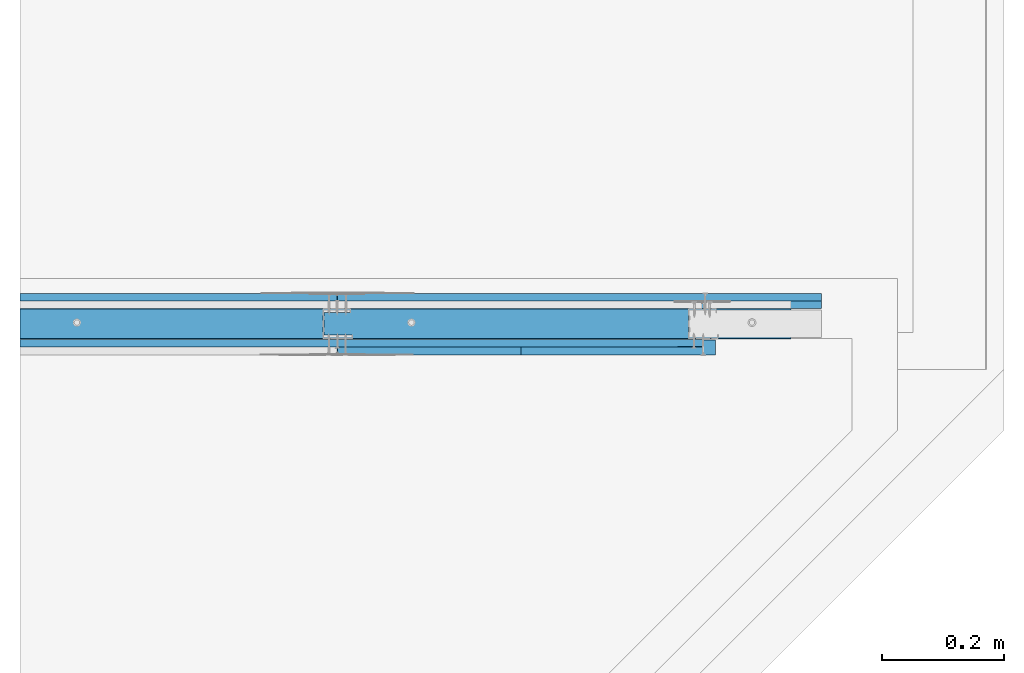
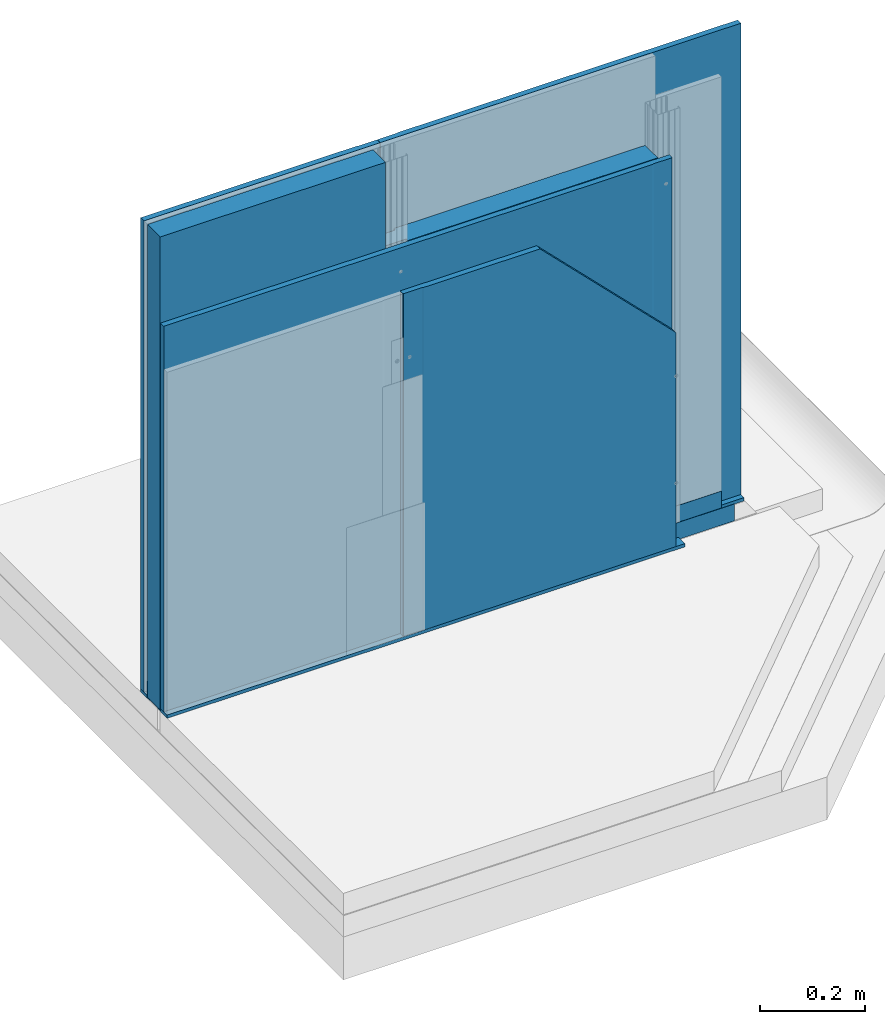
# One storey, part 2 of 36: 9 walls.
"""IFC2X3 building model written with IfcOpenShell, lengths in millimetres."""

from ifc_helpers import new_model, entity, si_unit, converted_unit, direction, frame, origin, origin_with_axes, place, context, project, spatial, faceted_brep, element, save


model = new_model("IFC2X3")

# Units and contexts
model_context = context("Model", 3, precision=1e-05, world=origin(), true_north=direction((0.0, 1.0, 0.0)))
ifc_project = project(units=[si_unit("LENGTHUNIT", "METRE", prefix="MILLI"), si_unit("AREAUNIT", "SQUARE_METRE"), si_unit("VOLUMEUNIT", "CUBIC_METRE"), converted_unit("PLANEANGLEUNIT", "DEGREE", entity("IfcPlaneAngleMeasure", 0.01745), si_unit("PLANEANGLEUNIT", "RADIAN"), dimensions=[0, 0, 0, 0, 0, 0, 0]), si_unit("SOLIDANGLEUNIT", "STERADIAN"), si_unit("MASSUNIT", "GRAM"), si_unit("TIMEUNIT", "SECOND"), si_unit("THERMODYNAMICTEMPERATUREUNIT", "DEGREE_CELSIUS"), si_unit("LUMINOUSINTENSITYUNIT", "LUMEN")], contexts=[model_context])

# Site, building, storey
site_placement = place(None, origin_with_axes())
site = spatial("IfcSite", under=ifc_project, at=site_placement, Name="Default Site", CompositionType="ELEMENT")
building_placement = place(site_placement, origin_with_axes())
building = spatial("IfcBuilding", under=site, at=building_placement, Name="Default Building", CompositionType="ELEMENT")
storey_placement = place(building_placement, origin_with_axes())
storey = spatial("IfcBuildingStorey", under=building, at=storey_placement, Name="Default Building Storey", CompositionType="ELEMENT", Elevation=0.0)

# Walls
wall_1_placement = place(storey_placement, frame((2647.429648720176, 2034.640922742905, 1161.999999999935), z_axis=(0.0, 0.0, 1.0), x_axis=(1.0, 0.0, 0.0)))
element("IfcWall", 1, at=wall_1_placement, inside=storey, Name="Płyta gipsowo-kartonowa RIGIPS PRO (4PRO™)", context=model_context, shape_type="Brep", body=[
    faceted_brep([(795.6109695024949, 12.49999999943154, 49.99999999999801), (795.6109695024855, -5.40711653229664e-10, 49.99999999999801), (795.6109695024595, -5.371020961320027e-10, -1050.001581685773), (795.6109695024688, 12.49999999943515, -1050.001581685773), (44.99999999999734, 12.50000000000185, 50.00000000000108), (40.99999999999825, 11.50000000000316, 50.00000000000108), (0.9999999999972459, 11.50000000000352, 50.00000000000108), (0.7411809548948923, 11.46592582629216, 50.00000000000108), (0.4999999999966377, 11.36602540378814, 50.00000000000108), (0.2928932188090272, 11.20710678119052, 50.00000000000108), (0.1339745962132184, 11.00000000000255, 50.00000000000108), (0.0340741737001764, 10.75881904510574, 50.00000000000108), (-3.248601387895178e-12, 10.50000000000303, 50.00000000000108), (-1.082867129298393e-12, -3.609557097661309e-13, 50.00000000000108), (44.99999999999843, 12.50000000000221, -1050.001581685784), (40.99999999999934, 11.50000000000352, -1050.001581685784), (0.9999999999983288, 11.50000000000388, -1050.001581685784), (0.7411809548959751, 11.46592582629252, -1050.001581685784), (0.4999999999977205, 11.3660254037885, -1050.001581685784), (0.29289321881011, 11.20710678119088, -1050.001581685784), (0.1339745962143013, 11.00000000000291, -1050.001581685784), (0.03407417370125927, 10.7588190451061, -1050.001581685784), (-2.165734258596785e-12, 10.50000000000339, -1050.001581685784), (0.0, 0.0, -1050.001581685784)], [[[0, 1, 2, 3]], [[0, 4, 5, 6, 7, 8, 9, 10, 11, 12, 13, 1]], [[3, 14, 4, 0]], [[5, 4, 14, 15]], [[6, 5, 15, 16]], [[7, 6, 16, 17]], [[8, 7, 17, 18]], [[9, 8, 18, 19]], [[10, 9, 19, 20]], [[11, 10, 20, 21]], [[12, 11, 21, 22]], [[13, 12, 22, 23]], [[2, 1, 13, 23]], [[14, 3, 2, 23, 22, 21, 20, 19, 18, 17, 16, 15]]]),
])
wall_2_placement = place(storey_placement, frame((2646.429648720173, 2034.640922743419, 1161.999999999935), z_axis=(0.0, 0.0, 1.0), x_axis=(-1.0, 0.0, 0.0)))
element("IfcWall", 2, at=wall_2_placement, inside=storey, Name="Płyta gipsowo-kartonowa RIGIPS PRO (4PRO™)", context=model_context, shape_type="Brep", body=[
    faceted_brep([(521.4045152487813, -12.4999999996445, 50.00000000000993), (521.4045152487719, 3.277477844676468e-10, 50.00000000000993), (521.404515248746, 3.241382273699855e-10, -1050.001581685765), (521.4045152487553, -12.49999999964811, -1050.001581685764), (44.99999999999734, -12.50000000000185, 50.00000000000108), (40.99999999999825, -11.50000000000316, 50.00000000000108), (0.9999999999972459, -11.50000000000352, 50.00000000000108), (0.7411809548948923, -11.46592582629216, 50.00000000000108), (0.4999999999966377, -11.36602540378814, 50.00000000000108), (0.2928932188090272, -11.20710678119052, 50.00000000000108), (0.1339745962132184, -11.00000000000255, 50.00000000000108), (0.0340741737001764, -10.75881904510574, 50.00000000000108), (-3.248601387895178e-12, -10.50000000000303, 50.00000000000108), (-1.082867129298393e-12, 3.609557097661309e-13, 50.00000000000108), (44.99999999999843, -12.50000000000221, -1050.001581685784), (40.99999999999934, -11.50000000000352, -1050.001581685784), (0.9999999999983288, -11.50000000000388, -1050.001581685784), (0.7411809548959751, -11.46592582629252, -1050.001581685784), (0.4999999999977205, -11.3660254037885, -1050.001581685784), (0.29289321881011, -11.20710678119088, -1050.001581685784), (0.1339745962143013, -11.00000000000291, -1050.001581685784), (0.03407417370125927, -10.7588190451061, -1050.001581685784), (-2.165734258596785e-12, -10.50000000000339, -1050.001581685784), (0.0, 0.0, -1050.001581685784)], [[[0, 1, 2, 3]], [[0, 4, 5, 6, 7, 8, 9, 10, 11, 12, 13, 1]], [[3, 14, 4, 0]], [[5, 4, 14, 15]], [[6, 5, 15, 16]], [[7, 6, 16, 17]], [[8, 7, 17, 18]], [[9, 8, 18, 19]], [[10, 9, 19, 20]], [[11, 10, 20, 21]], [[12, 11, 21, 22]], [[13, 12, 22, 23]], [[2, 1, 13, 23]], [[14, 3, 2, 23, 22, 21, 20, 19, 18, 17, 16, 15]]]),
])
wall_3_placement = place(storey_placement, frame((3443.040618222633, 2022.494753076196, 104.3840257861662), z_axis=(0.0, 0.0, 1.0), x_axis=(1.0, 0.0, 0.0)))
element("IfcWall", 3, at=wall_3_placement, inside=storey, Name="Dedykowana masa szpachlowa Rigips - konstrukcyjna", context=model_context, shape_type="Brep", body=[
    faceted_brep([(0.0, 24.6461696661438, 0.0), (0.0, 0.0, 0.0), (-1318.015484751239, 0.0, 0.0), (-1318.015484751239, 24.6461696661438, 0.0), (0.0, 0.0, 7.614392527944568), (-1318.015484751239, 0.0, 7.614392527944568), (0.0, 24.6461696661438, 7.614392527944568), (-1318.015484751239, 24.6461696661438, 7.614392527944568)], [[[0, 1, 2, 3]], [[1, 4, 5, 2]], [[4, 6, 7, 5]], [[6, 0, 3, 7]], [[7, 3, 2, 5]], [[0, 6, 4, 1]]]),
])
wall_4_placement = place(storey_placement, frame((2786.490947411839, 5452.424146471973, 110.8006114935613), z_axis=(0.0, 0.0, 1.0), x_axis=(1.0, 0.0, 0.0)))
element("IfcWall", 4, at=wall_4_placement, inside=storey, Name="Wełna mineralna szklana lub skalna ISOVER", context=model_context, shape_type="Brep", body=[
    faceted_brep([(-161.2958819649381, -3473.633223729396, -3.060216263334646), (-161.2958819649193, -3473.633223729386, 901.1993885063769), (-114.6214102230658, -3473.633223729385, 901.1993885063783), (-114.6214102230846, -3473.633223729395, -3.060216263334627), (-114.6214102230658, -3479.633223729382, 901.1993885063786), (-114.6214102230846, -3479.633223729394, -3.060216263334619), (-161.2958819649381, -3436.833223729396, -3.060216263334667), (-161.2958819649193, -3436.833223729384, 901.1993885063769), (-117.6214102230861, -3436.833223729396, -3.060216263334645), (-117.6214102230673, -3436.833223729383, 901.199388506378), (-117.6214102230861, -3431.283223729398, -3.060216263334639), (437.5658080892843, -3431.283223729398, -3.060216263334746), (437.5658080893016, -3431.283223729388, 901.1993885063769), (-117.6214102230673, -3431.283223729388, 901.1993885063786), (437.5658080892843, -3479.633223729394, -3.060216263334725), (437.5658080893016, -3479.633223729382, 901.1993885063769)], [[[0, 1, 2, 3]], [[3, 2, 4, 5]], [[1, 0, 6, 7]], [[7, 6, 8, 9]], [[10, 11, 12, 13]], [[9, 8, 10, 13]], [[3, 5, 14, 11, 10, 8, 6, 0]], [[4, 15, 14, 5]], [[15, 4, 2, 1, 7, 9, 13, 12]], [[14, 15, 12, 11]]]),
])
wall_5_placement = place(storey_placement, frame((2172.059826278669, 5452.424146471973, 110.6721379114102), z_axis=(0.0, 0.0, 1.0), x_axis=(1.0, 0.0, 0.0)))
element("IfcWall", 5, at=wall_5_placement, inside=storey, Name="Wełna mineralna szklana lub skalna ISOVER", context=model_context, shape_type="Brep", body=[
    faceted_brep([(-47.03469280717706, -3431.283223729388, 1101.327862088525), (-47.0346928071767, -3479.633223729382, 1101.327862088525), (-47.03469280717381, -3479.633223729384, -2.931742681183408), (-47.03469280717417, -3431.283223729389, -2.931742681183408), (450.8097109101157, -3431.283223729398, -2.931742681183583), (450.8097109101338, -3431.283223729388, 1101.327862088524), (450.8097109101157, -3479.633223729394, -2.931742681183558), (450.8097109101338, -3479.633223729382, 1101.327862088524)], [[[0, 1, 2, 3]], [[3, 4, 5, 0]], [[2, 6, 4, 3]], [[2, 1, 7, 6]], [[0, 5, 7, 1]], [[6, 7, 5, 4]]]),
])
wall_6_placement = place(storey_placement, frame((3200.681710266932, 5452.424146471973, 110.3903952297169), z_axis=(6.44634805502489e-14, -6.858158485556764e-13, 1.0), x_axis=(1.0, -1.148337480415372e-16, -9.007748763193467e-14)))
element("IfcWall", 6, at=wall_6_placement, inside=storey, Name="Profil RIGIPS UW50 ULTRASTIL®", context=model_context, shape_type="Brep", body=[
    faceted_brep([(-938.2578181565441, -3470.476261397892, -4.901701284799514), (-938.2578181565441, -3470.287116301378, -4.783410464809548), (-938.2578181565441, -3470.128902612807, -4.626130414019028), (-1075.65657679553, -3470.128902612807, -4.626130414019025), (-1075.65657679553, -3470.476261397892, -4.901701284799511), (-938.2578181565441, -3470.063927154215, -4.535249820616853), (-938.2578181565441, -3470.009494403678, -4.437688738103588), (-1075.65657679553, -3470.009494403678, -4.437688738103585), (-938.2578181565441, -3440.279331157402, -4.783410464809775), (-938.2578181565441, -3440.090186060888, -4.901701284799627), (-938.2578181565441, -3439.87952304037, -4.97511570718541), (-1075.65657679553, -3439.87952304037, -4.975115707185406), (-1075.65657679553, -3440.279331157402, -4.783410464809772), (-938.2578181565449, -3440.819375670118, -2.866589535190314), (-938.2578181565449, -3441.008520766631, -2.748298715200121), (-938.2578181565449, -3441.219183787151, -2.674884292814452), (-1075.656576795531, -3441.219183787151, -2.67488429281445), (-1075.656576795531, -3440.819375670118, -2.866589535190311), (-938.2578181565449, -3469.55792669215, -2.74829871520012), (-938.2578181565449, -3469.747071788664, -2.866589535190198), (-938.2578181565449, -3469.905285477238, -3.023869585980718), (-1075.656576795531, -3469.905285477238, -3.023869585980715), (-1075.656576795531, -3469.55792669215, -2.748298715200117), (-1075.65657679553, -3479.733223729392, 35.00000000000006), (-1075.65657679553, -3480.283223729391, 35.00000000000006), (-1075.65657679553, -3480.283223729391, -4.199999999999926), (-1075.65657679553, -3480.273374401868, -4.325147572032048), (-1075.65657679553, -3480.244068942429, -4.447213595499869), (-1075.65657679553, -3480.196028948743, -4.563192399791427), (-1075.65657679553, -3480.130437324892, -4.670228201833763), (-1075.65657679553, -3480.048909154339, -4.765685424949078), (-1075.65657679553, -3479.953451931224, -4.847213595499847), (-1075.65657679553, -3479.846416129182, -4.912805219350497), (-1075.65657679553, -3479.73043732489, -4.960845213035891), (-1075.65657679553, -3479.608371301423, -4.99015067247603), (-1075.65657679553, -3479.483223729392, -4.999999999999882), (-1075.65657679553, -3470.908620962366, -4.999999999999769), (-1075.65657679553, -3470.686924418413, -4.975115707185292), (-1075.65657679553, -3469.680725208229, -3.762311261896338), (-1075.65657679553, -3469.561316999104, -3.573869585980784), (-1075.65657679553, -3469.403103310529, -3.416589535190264), (-1075.65657679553, -3469.213958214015, -3.298298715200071), (-1075.65657679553, -3469.003295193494, -3.224884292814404), (-1075.65657679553, -3468.781598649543, -3.199999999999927), (-1075.65657679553, -3441.78484880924, -3.199999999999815), (-1075.65657679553, -3441.563152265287, -3.224884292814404), (-1075.65657679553, -3441.352489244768, -3.298298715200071), (-1075.65657679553, -3441.163344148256, -3.416589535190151), (-1075.65657679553, -3441.005130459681, -3.573869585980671), (-1075.65657679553, -3440.885722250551, -3.762311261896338), (-1075.65657679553, -3440.556953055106, -4.437688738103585), (-1075.65657679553, -3440.437544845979, -4.626130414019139), (-1075.65657679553, -3439.657826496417, -4.999999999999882), (-1075.65657679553, -3431.083223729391, -4.999999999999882), (-1075.65657679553, -3430.95807615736, -4.990150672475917), (-1075.65657679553, -3430.83601013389, -4.960845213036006), (-1075.65657679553, -3430.720031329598, -4.912805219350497), (-1075.65657679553, -3430.612995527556, -4.847213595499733), (-1075.65657679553, -3430.51753830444, -4.765685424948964), (-1075.65657679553, -3430.436010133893, -4.670228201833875), (-1075.65657679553, -3430.370418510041, -4.563192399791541), (-1075.65657679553, -3430.322378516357, -4.447213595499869), (-1075.65657679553, -3430.293073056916, -4.325147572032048), (-1075.65657679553, -3430.283223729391, -4.199999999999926), (-1075.65657679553, -3430.283223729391, 35.00000000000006), (-1075.65657679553, -3430.833223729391, 35.00000000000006), (-1075.65657679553, -3430.833223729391, -4.199999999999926), (-1075.65657679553, -3430.836301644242, -4.23910861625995), (-1075.65657679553, -3430.845459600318, -4.27725424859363), (-1075.65657679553, -3430.860472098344, -4.313497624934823), (-1075.65657679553, -3430.880969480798, -4.346946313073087), (-1075.65657679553, -3430.906447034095, -4.376776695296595), (-1075.65657679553, -3430.936277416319, -4.402254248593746), (-1075.65657679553, -3430.969726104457, -4.422751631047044), (-1075.65657679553, -3431.005969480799, -4.437764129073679), (-1075.65657679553, -3431.044115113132, -4.44692208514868), (-1075.65657679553, -3431.083223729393, -4.449999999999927), (-1075.65657679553, -3439.313858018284, -4.45000000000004), (-1075.65657679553, -3439.535554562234, -4.425115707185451), (-1075.65657679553, -3439.746217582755, -4.351701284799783), (-1075.65657679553, -3439.935362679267, -4.233410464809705), (-1075.65657679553, -3440.093576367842, -4.076130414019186), (-1075.65657679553, -3440.212984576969, -3.887688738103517), (-1075.65657679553, -3440.541753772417, -3.212311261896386), (-1075.656576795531, -3440.661161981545, -3.02386958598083), (-1075.656576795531, -3441.440880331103, -2.649999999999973), (-1075.656576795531, -3469.125567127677, -2.649999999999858), (-1075.656576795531, -3469.347263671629, -2.674884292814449), (-1075.65657679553, -3470.024693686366, -3.212311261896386), (-1075.65657679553, -3470.353462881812, -3.887688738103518), (-1075.65657679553, -3470.472871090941, -4.076130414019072), (-1075.65657679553, -3470.631084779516, -4.233410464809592), (-1075.65657679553, -3470.820229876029, -4.351701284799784), (-1075.65657679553, -3471.030892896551, -4.425115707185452), (-1075.65657679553, -3471.252589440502, -4.449999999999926), (-1075.65657679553, -3479.483223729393, -4.449999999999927), (-1075.65657679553, -3479.522332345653, -4.446922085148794), (-1075.65657679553, -3479.560477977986, -4.437764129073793), (-1075.65657679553, -3479.596721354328, -4.422751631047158), (-1075.65657679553, -3479.630170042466, -4.402254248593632), (-1075.65657679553, -3479.660000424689, -4.376776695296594), (-1075.65657679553, -3479.685477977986, -4.346946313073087), (-1075.65657679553, -3479.705975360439, -4.313497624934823), (-1075.65657679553, -3479.720987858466, -4.27725424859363), (-1075.65657679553, -3479.730145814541, -4.23910861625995), (-1075.65657679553, -3479.733223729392, -4.199999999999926), (192.3589079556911, -3480.283223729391, -4.200000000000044), (192.358907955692, -3480.283223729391, 35.0), (192.358907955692, -3479.733223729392, 35.0), (192.3589079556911, -3479.733223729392, -4.200000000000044), (192.3589079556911, -3479.730145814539, -4.239108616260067), (192.3589079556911, -3479.720987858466, -4.277254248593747), (192.3589079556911, -3479.705975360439, -4.313497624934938), (192.3589079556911, -3479.685477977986, -4.346946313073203), (192.3589079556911, -3479.660000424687, -4.376776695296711), (192.3589079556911, -3479.630170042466, -4.402254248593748), (192.3589079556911, -3479.596721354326, -4.422751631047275), (192.3589079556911, -3479.560477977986, -4.43776412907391), (192.3589079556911, -3479.522332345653, -4.446922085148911), (192.3589079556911, -3479.483223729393, -4.450000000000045), (192.3589079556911, -3471.252589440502, -4.450000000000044), (192.3589079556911, -3471.030892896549, -4.425115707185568), (192.3589079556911, -3470.820229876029, -4.3517012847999), (192.3589079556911, -3470.631084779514, -4.233410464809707), (192.3589079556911, -3470.472871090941, -4.076130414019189), (192.3589079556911, -3470.353462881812, -3.887688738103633), (192.358907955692, -3470.024693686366, -3.212311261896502), (192.358907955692, -3469.905285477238, -3.023869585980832), (192.358907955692, -3469.747071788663, -2.866589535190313), (192.358907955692, -3469.55792669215, -2.748298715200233), (192.358907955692, -3469.347263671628, -2.674884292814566), (192.358907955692, -3469.125567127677, -2.649999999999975), (192.358907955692, -3441.440880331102, -2.650000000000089), (192.358907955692, -3441.219183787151, -2.674884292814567), (192.358907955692, -3441.008520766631, -2.748298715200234), (192.358907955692, -3440.819375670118, -2.866589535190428), (192.358907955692, -3440.661161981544, -3.023869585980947), (192.358907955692, -3440.541753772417, -3.212311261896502), (192.3589079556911, -3440.212984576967, -3.887688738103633), (192.3589079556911, -3440.093576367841, -4.076130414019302), (192.3589079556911, -3439.935362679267, -4.233410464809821), (192.3589079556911, -3439.746217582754, -4.3517012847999), (192.3589079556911, -3439.535554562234, -4.425115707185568), (192.3589079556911, -3439.313858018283, -4.450000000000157), (192.3589079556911, -3431.083223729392, -4.450000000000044), (192.3589079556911, -3431.044115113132, -4.446922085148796), (192.3589079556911, -3431.005969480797, -4.437764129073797), (192.3589079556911, -3430.969726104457, -4.422751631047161), (192.3589079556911, -3430.936277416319, -4.402254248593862), (192.3589079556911, -3430.906447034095, -4.376776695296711), (192.3589079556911, -3430.880969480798, -4.346946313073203), (192.3589079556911, -3430.860472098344, -4.313497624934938), (192.3589079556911, -3430.845459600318, -4.277254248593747), (192.3589079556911, -3430.836301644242, -4.239108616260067), (192.3589079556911, -3430.833223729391, -4.200000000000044), (192.358907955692, -3430.833223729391, 35.0), (192.358907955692, -3430.283223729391, 35.0), (192.3589079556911, -3430.283223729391, -4.200000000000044), (192.3589079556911, -3430.293073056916, -4.325147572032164), (192.3589079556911, -3430.322378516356, -4.447213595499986), (192.358907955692, -3430.370418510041, -4.563192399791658), (192.358907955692, -3430.436010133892, -4.670228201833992), (192.358907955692, -3430.51753830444, -4.765685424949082), (192.358907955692, -3430.612995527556, -4.84721359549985), (192.3589079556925, -3430.720031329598, -4.912805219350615), (192.3589079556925, -3430.83601013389, -4.960845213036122), (192.3589079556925, -3430.958076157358, -4.990150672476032), (192.3589079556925, -3431.083223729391, -4.999999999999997), (192.3589079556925, -3439.657826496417, -4.999999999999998), (192.3589079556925, -3439.879523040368, -4.975115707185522), (192.3589079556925, -3440.090186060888, -4.901701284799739), (192.358907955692, -3440.279331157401, -4.783410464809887), (192.358907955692, -3440.437544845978, -4.626130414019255), (192.3589079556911, -3440.556953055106, -4.437688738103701), (192.358907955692, -3440.88572225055, -3.762311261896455), (192.358907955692, -3441.005130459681, -3.573869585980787), (192.358907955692, -3441.163344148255, -3.416589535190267), (192.358907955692, -3441.352489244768, -3.298298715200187), (192.358907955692, -3441.563152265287, -3.22488429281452), (192.358907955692, -3441.78484880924, -3.199999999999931), (192.358907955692, -3468.781598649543, -3.200000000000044), (192.358907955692, -3469.003295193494, -3.22488429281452), (192.358907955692, -3469.213958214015, -3.298298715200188), (192.358907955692, -3469.403103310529, -3.416589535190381), (192.358907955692, -3469.561316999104, -3.5738695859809), (192.358907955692, -3469.680725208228, -3.762311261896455), (192.3589079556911, -3470.009494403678, -4.437688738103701), (192.3589079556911, -3470.063927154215, -4.535249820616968), (192.358907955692, -3470.128902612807, -4.626130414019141), (192.358907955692, -3470.287116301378, -4.783410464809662), (192.3589079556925, -3470.476261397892, -4.901701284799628), (192.3589079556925, -3470.686924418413, -4.975115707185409), (192.3589079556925, -3470.908620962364, -4.999999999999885), (192.3589079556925, -3479.483223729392, -4.999999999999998), (192.3589079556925, -3479.608371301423, -4.990150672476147), (192.3589079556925, -3479.730437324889, -4.960845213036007), (192.3589079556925, -3479.846416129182, -4.912805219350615), (192.358907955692, -3479.953451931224, -4.847213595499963), (192.358907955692, -3480.048909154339, -4.765685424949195), (192.358907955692, -3480.130437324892, -4.670228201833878), (192.358907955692, -3480.196028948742, -4.563192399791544), (192.3589079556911, -3480.244068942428, -4.447213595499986), (192.3589079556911, -3480.273374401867, -4.325147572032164)], [[[0, 1, 2, 3, 4]], [[2, 5, 6, 7, 3]], [[8, 9, 10, 11, 12]], [[13, 14, 15, 16, 17]], [[18, 19, 20, 21, 22]], [[23, 24, 25, 26, 27, 28, 29, 30, 31, 32, 33, 34, 35, 36, 37, 4, 3, 7, 38, 39, 40, 41, 42, 43, 44, 45, 46, 47, 48, 49, 50, 51, 12, 11, 52, 53, 54, 55, 56, 57, 58, 59, 60, 61, 62, 63, 64, 65, 66, 67, 68, 69, 70, 71, 72, 73, 74, 75, 76, 77, 78, 79, 80, 81, 82, 83, 84, 17, 16, 85, 86, 87, 22, 21, 88, 89, 90, 91, 92, 93, 94, 95, 96, 97, 98, 99, 100, 101, 102, 103, 104, 105]], [[106, 107, 108, 109, 110, 111, 112, 113, 114, 115, 116, 117, 118, 119, 120, 121, 122, 123, 124, 125, 126, 127, 128, 129, 130, 131, 132, 133, 134, 135, 136, 137, 138, 139, 140, 141, 142, 143, 144, 145, 146, 147, 148, 149, 150, 151, 152, 153, 154, 155, 156, 157, 158, 159, 160, 161, 162, 163, 164, 165, 166, 167, 168, 169, 170, 171, 172, 173, 174, 175, 176, 177, 178, 179, 180, 181, 182, 183, 184, 185, 186, 187, 188, 189, 190, 191, 192, 193, 194, 195, 196, 197, 198, 199, 200, 201, 202]], [[63, 157, 156, 64]], [[64, 156, 155, 65]], [[65, 155, 154, 66]], [[144, 76, 75, 145]], [[74, 146, 145, 75]], [[73, 147, 146, 74]], [[147, 73, 72, 148]], [[71, 149, 148, 72]], [[149, 71, 70, 150]], [[69, 151, 150, 70]], [[68, 152, 151, 69]], [[152, 68, 67, 153]], [[66, 154, 153, 67]], [[76, 144, 143, 77]], [[81, 139, 138, 82]], [[80, 140, 139, 81]], [[79, 141, 140, 80]], [[143, 142, 78, 77]], [[78, 142, 141, 79]], [[82, 138, 137, 83]], [[15, 133, 132, 85, 16]], [[14, 134, 133, 15]], [[13, 135, 134, 14]], [[84, 136, 135, 13, 17]], [[137, 136, 84, 83]], [[85, 132, 131, 86]], [[20, 127, 126, 88, 21]], [[19, 128, 127, 20]], [[18, 129, 128, 19]], [[87, 130, 129, 18, 22]], [[131, 130, 87, 86]], [[88, 126, 125, 89]], [[93, 121, 120, 94]], [[92, 122, 121, 93]], [[91, 123, 122, 92]], [[125, 124, 90, 89]], [[90, 124, 123, 91]], [[94, 120, 119, 95]], [[109, 105, 104, 110]], [[103, 111, 110, 104]], [[102, 112, 111, 103]], [[112, 102, 101, 113]], [[100, 114, 113, 101]], [[114, 100, 99, 115]], [[98, 116, 115, 99]], [[97, 117, 116, 98]], [[117, 97, 96, 118]], [[95, 119, 118, 96]], [[105, 109, 108, 23]], [[23, 108, 107, 24]], [[24, 107, 106, 25]], [[33, 195, 194, 34]], [[194, 193, 35, 34]], [[32, 196, 195, 33]], [[30, 198, 197, 31]], [[197, 196, 32, 31]], [[28, 200, 199, 29]], [[199, 198, 30, 29]], [[27, 201, 200, 28]], [[25, 106, 202, 26]], [[202, 201, 27, 26]], [[35, 193, 192, 36]], [[5, 2, 188, 187]], [[187, 186, 6, 5]], [[1, 189, 188, 2]], [[0, 190, 189, 1]], [[37, 191, 190, 0, 4]], [[192, 191, 37, 36]], [[6, 186, 185, 38, 7]], [[42, 181, 180, 43]], [[41, 182, 181, 42]], [[40, 183, 182, 41]], [[185, 184, 39, 38]], [[39, 184, 183, 40]], [[43, 180, 179, 44]], [[48, 175, 174, 49]], [[47, 176, 175, 48]], [[46, 177, 176, 47]], [[179, 178, 45, 44]], [[45, 178, 177, 46]], [[49, 174, 173, 50]], [[10, 169, 168, 52, 11]], [[9, 170, 169, 10]], [[8, 171, 170, 9]], [[51, 172, 171, 8, 12]], [[173, 172, 51, 50]], [[52, 168, 167, 53]], [[61, 159, 158, 62]], [[158, 157, 63, 62]], [[60, 160, 159, 61]], [[58, 162, 161, 59]], [[161, 160, 60, 59]], [[56, 164, 163, 57]], [[163, 162, 58, 57]], [[55, 165, 164, 56]], [[53, 167, 166, 54]], [[166, 165, 55, 54]]]),
])
wall_7_placement = place(storey_placement, frame((3268.31475601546, 1946.180077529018, 104.3840257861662), z_axis=(0.0, 0.0, 1.0), x_axis=(1.0, 0.0, 0.0)))
element("IfcWall", 7, at=wall_7_placement, inside=storey, Name="Dedykowana masa szpachlowa Rigips - konstrukcyjna", context=model_context, shape_type="Brep", body=[
    faceted_brep([(0.0, 24.6461696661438, 0.0), (0.0, 0.0, 0.0), (-1143.289622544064, 0.0, 0.0), (-1143.289622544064, 24.6461696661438, 0.0), (0.0, 0.0, 7.614392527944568), (-1143.289622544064, 0.0, 7.614392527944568), (0.0, 24.6461696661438, 7.614392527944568), (-1143.289622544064, 24.6461696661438, 7.614392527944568)], [[[0, 1, 2, 3]], [[1, 4, 5, 2]], [[4, 6, 7, 5]], [[6, 0, 3, 7]], [[7, 3, 2, 5]], [[0, 6, 4, 1]]]),
])
wall_8_placement = place(storey_placement, frame((2647.242430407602, 1958.680077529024, 1161.999999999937), z_axis=(0.0, 0.0, 1.0), x_axis=(1.0, 0.0, 0.0)))
element("IfcWall", 8, at=wall_8_placement, inside=storey, Name="Płyta gipsowo-kartonowa RIGIPS PRO (4PRO™)", context=model_context, shape_type="Brep", body=[
    faceted_brep([(601.187218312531, -12.49999999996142, -550.0000000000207), (301.1872183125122, -12.49999999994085, -250.0000000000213), (301.1872183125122, 3.97051280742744e-11, -250.0000000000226), (601.1872183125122, 5.919673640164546e-11, -550.000000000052), (601.1872183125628, -12.49999999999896, -1050.001581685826), (44.99999999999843, -12.50000000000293, -1050.001581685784), (44.99999999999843, -12.50000000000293, -249.9999999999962), (601.187218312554, 2.526689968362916e-12, -1050.001581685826), (285.9232783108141, 4.475850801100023e-11, -250.0000000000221), (40.99999999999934, -11.50000000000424, -249.9999999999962), (0.9999999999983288, -11.5000000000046, -249.9999999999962), (0.7411809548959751, -11.46592582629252, -249.9999999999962), (0.4999999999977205, -11.3660254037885, -249.9999999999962), (0.29289321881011, -11.20710678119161, -249.9999999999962), (0.1339745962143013, -11.00000000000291, -249.9999999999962), (0.03407417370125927, -10.7588190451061, -249.9999999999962), (-3.97051280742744e-12, -10.50000000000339, -249.9999999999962), (0.0, 0.0, -249.9999999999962), (40.99999999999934, -11.50000000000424, -1050.001581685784), (0.9999999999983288, -11.5000000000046, -1050.001581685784), (0.7411809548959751, -11.46592582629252, -1050.001581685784), (0.4999999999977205, -11.3660254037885, -1050.001581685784), (0.29289321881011, -11.20710678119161, -1050.001581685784), (0.1339745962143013, -11.00000000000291, -1050.001581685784), (0.03407417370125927, -10.7588190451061, -1050.001581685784), (-3.97051280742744e-12, -10.50000000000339, -1050.001581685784), (0.0, 0.0, -1050.001581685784)], [[[0, 1, 2, 3]], [[0, 4, 5, 6, 1]], [[3, 7, 4, 0]], [[8, 2, 1, 6, 9, 10, 11, 12, 13, 14, 15, 16, 17]], [[2, 8, 3]], [[9, 6, 5, 18]], [[10, 9, 18, 19]], [[11, 10, 19, 20]], [[12, 11, 20, 21]], [[13, 12, 21, 22]], [[14, 13, 22, 23]], [[15, 14, 23, 24]], [[16, 15, 24, 25]], [[17, 16, 25, 26]], [[26, 7, 3, 8, 17]], [[5, 4, 7, 26, 25, 24, 23, 22, 21, 20, 19, 18]]]),
])
wall_9_placement = place(storey_placement, frame((2048.4296487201, 1971.180077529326, 1261.999999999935), z_axis=(0.0, 0.0, 1.0), x_axis=(1.0, 0.0, 0.0)))
element("IfcWall", 9, at=wall_9_placement, inside=storey, Name="Płyta gipsowo-kartonowa RIGIPS PRO (4PRO™)", context=model_context, shape_type="Brep", body=[
    faceted_brep([(76.59548475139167, 0.0, -249.9999999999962), (76.59548475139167, -12.50000000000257, -249.9999999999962), (76.59548475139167, -12.50000000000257, -1150.001581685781), (76.59548475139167, 0.0, -1150.001581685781), (1200.0, 0.0, -249.9999999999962), (1200.000000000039, -10.49999999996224, -249.9999999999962), (1199.965925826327, -10.75881904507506, -249.9999999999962), (1199.866025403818, -10.99999999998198, -249.9999999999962), (1199.707106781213, -11.20710678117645, -249.9999999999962), (1199.50000000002, -11.36602540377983, -249.9999999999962), (1199.258819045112, -11.46592582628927, -249.9999999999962), (1199.0, -11.50000000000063, -249.9999999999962), (1158.999999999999, -11.50000000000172, -249.9999999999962), (1155.000000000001, -12.49999999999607, -249.9999999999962), (1199.965925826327, -10.75881904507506, -1150.001581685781), (1199.866025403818, -10.99999999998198, -1150.001581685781), (1199.707106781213, -11.20710678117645, -1150.001581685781), (1199.50000000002, -11.36602540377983, -1150.001581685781), (1199.258819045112, -11.46592582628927, -1150.001581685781), (1199.0, -11.50000000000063, -1150.001581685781), (1158.999999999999, -11.50000000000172, -1150.001581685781), (1155.000000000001, -12.49999999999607, -1150.001581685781), (1200.0, 0.0, -1150.001581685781), (1200.000000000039, -10.49999999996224, -1150.001581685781)], [[[0, 1, 2, 3]], [[0, 4, 5, 6, 7, 8, 9, 10, 11, 12, 13, 1]], [[7, 6, 14, 15]], [[8, 7, 15, 16]], [[9, 8, 16, 17]], [[10, 9, 17, 18]], [[11, 10, 18, 19]], [[12, 11, 19, 20]], [[13, 12, 20, 21]], [[2, 1, 13, 21]], [[3, 22, 4, 0]], [[5, 4, 22, 23]], [[6, 5, 23, 14]], [[14, 23, 22, 3, 2, 21, 20, 19, 18, 17, 16, 15]]]),
])

save(model, "model.ifc")
